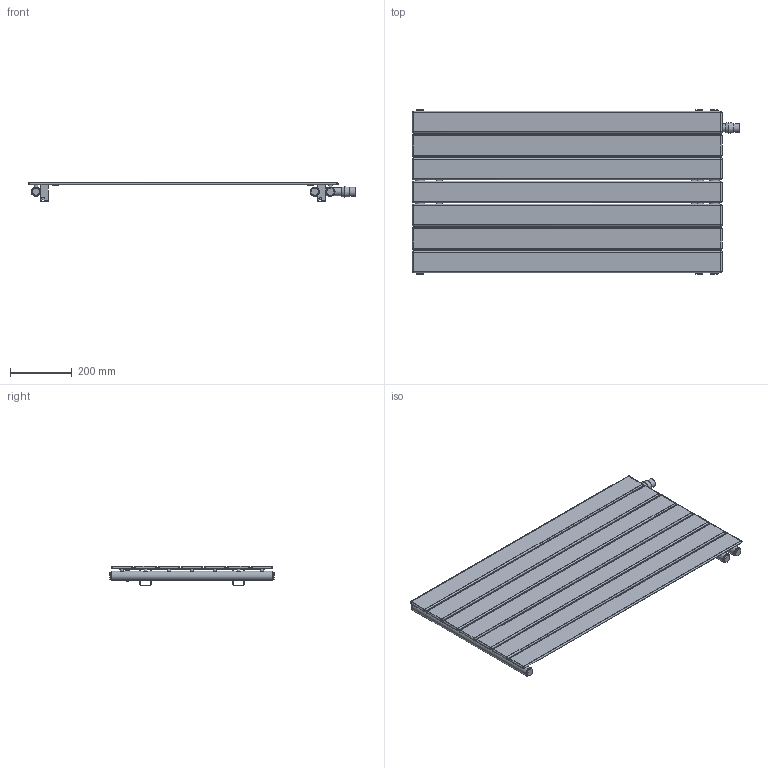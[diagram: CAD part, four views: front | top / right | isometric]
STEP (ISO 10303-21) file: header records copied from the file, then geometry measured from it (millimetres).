
FILE_DESCRIPTION(/* description */ (''),/* implementation_level */ '2;1');
FILE_NAME(/* name */ 'C:\Grzejniki\13DLUXRAD\pokojowe\NIAGARA\to\NIAGARA POZIOMA Z WKŁADKĄ TERMOSTATYCZNĄ 520x1000.iam.stp',/* time_stamp */ '2016-06-28T17:33:51+02:00',/* author */ ('m.szydziak'),/* organization */ (''),/* preprocessor_version */ 'ST-DEVELOPER v16.5',/* originating_system */ 'Autodesk Inventor 2017',/* authorisation */ '');
FILE_SCHEMA (('AUTOMOTIVE_DESIGN { 1 0 10303 214 3 1 1 }'));
Length unit declared in the file: millimetre
Products named in the file (10): NIAGARA POZIOMA Z WKŁADKĄ TERMOST
ATYCZNĄ 520x1000; NIAGARA 1000x520; 70x8x1,2x1004; michałek; ucho duze; ucho duze 2; poprzeczka 470; fi30x1,5x520; Głowica Termostatyczna; korek
Assembly tree (38 placements, depth 3):
  NIAGARA POZIOMA Z WKŁADKĄ TERMOST
ATYCZNĄ 520x1000
    NIAGARA 1000x520
      fi30x1,5x520  x2
      70x8x1,2x1004  x7
      michałek  x14
      ucho duze  x2
      ucho duze 2  x2
      korek  x4
      poprzeczka 470  x2
    fi30x1,5x520
    Głowica Termostatyczna
    korek  x2
Bounding box: 1056.85 x 532 x 62.5 mm (x, y, z)
Volume: 1605053.4 mm3; surface area: 2422444.3 mm2
Topology: 37 solids, 37 shells, 504 faces, 1123 edges, 693 vertices
Faces by surface type: plane 270, cylinder 172, sphere 56, torus 4, cone 2
Full cylindrical faces by diameter (mm): 8 x14, 9 x14, 10 x14, 11.5 x14, 18.631 x6, 24 x6, 25 x1, 27 x3, 28 x1, 30 x3
Entity records: 4081 total; most frequent: DIRECTION 722, CARTESIAN_POINT 697, ORIENTED_EDGE 548, AXIS2_PLACEMENT_3D 275, EDGE_CURVE 274, VERTEX_POINT 178, LINE 172, VECTOR 172
